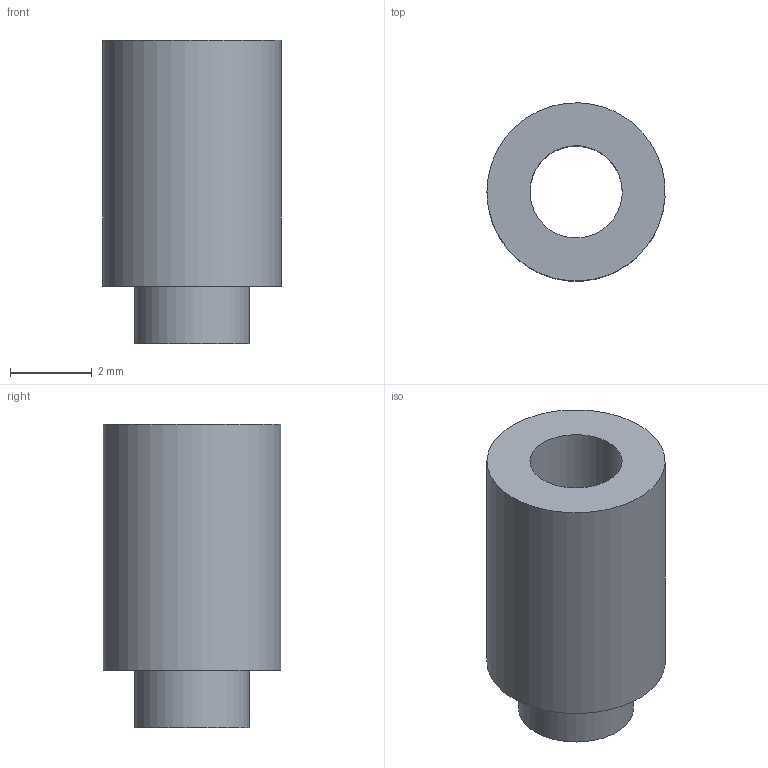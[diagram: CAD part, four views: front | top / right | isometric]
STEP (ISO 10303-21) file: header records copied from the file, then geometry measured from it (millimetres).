
FILE_DESCRIPTION(('FreeCAD Model'),'2;1');
FILE_NAME('Open CASCADE Shape Model','2026-03-20T17:23:17',('Author'),( ''),'Open CASCADE STEP processor 7.8','FreeCAD','Unknown');
FILE_SCHEMA(('AP242_MANAGED_MODEL_BASED_3D_ENGINEERING_MIM_LF. {1 0 10303 442 1 1 4 }'));
Length unit declared in the file: millimetre
Products named in the file (1): 1_transformed
Bounding box: 4.35 x 4.34 x 7.4 mm (x, y, z)
Volume: 69 mm3; surface area: 168.8 mm2
Topology: 1 solids, 1 shells, 6 faces, 9 edges, 6 vertices
Faces by surface type: bspline 6
Entity records: 201 total; most frequent: CARTESIAN_POINT 109, ORIENTED_EDGE 18, FACE_BOUND 9, EDGE_LOOP 9, EDGE_CURVE 9, ADVANCED_FACE 6, VERTEX_POINT 6, B_SPLINE_SURFACE_WITH_KNOTS 3
